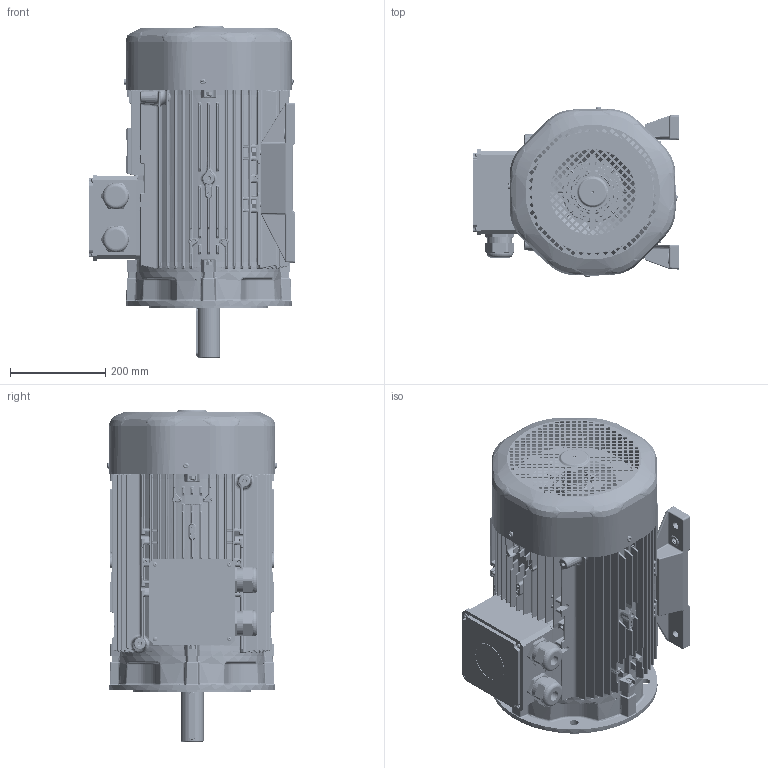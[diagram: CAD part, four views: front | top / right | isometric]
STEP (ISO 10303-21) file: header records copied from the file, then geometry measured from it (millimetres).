
FILE_DESCRIPTION(/* description */ (''),/* implementation_level */ '2;1');
FILE_NAME(/* name */ 'OUTLOOK VIEW QH180 PA B35 FF300 SPL.stp',/* time_stamp */ '2021-09-13T14:47:23+03:00',/* author */ (''),/* organization */ (''),/* preprocessor_version */ 'ST-DEVELOPER v16',/* originating_system */ 'SIEMENS PLM Software NX 11.0',/* authorisation */ '');
FILE_SCHEMA (('AUTOMOTIVE_DESIGN { 1 0 10303 214 3 1 1 1 }'));
Products named in the file (1): 26062CE45B9Cd73q
Bounding box: 434 x 357.27 x 698 mm (x, y, z)
Volume: 10376080.3 mm3; surface area: 3486577.4 mm2
Topology: 85 solids, 95 shells, 14789 faces, 36707 edges, 21708 vertices
Faces by surface type: cylinder 5183, plane 3834, bspline 3683, sphere 869, cone 625, torus 554, extrusion 41
Full cylindrical faces by diameter (mm): 2.5 x2, 3.5 x2, 4 x5, 4.3 x4, 4.918 x4, 5.5 x3, 5.6 x4, 6 x4, 6.5 x4, 7 x1, 7.6 x1, 8 x17, 8.376 x4, 8.5 x4, 9.444 x3, 10 x7, 10.5 x4, 12 x4, 13 x9, 14 x1, 16 x4, 16.5 x4, 17 x1, 18.5 x4, 20 x4, 22 x2, 24 x1, 43.7 x1, 44.3 x1, 47 x1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
Entity records: 521252 total; most frequent: CARTESIAN_POINT 191607, ORIENTED_EDGE 70688, DIRECTION 64533, EDGE_CURVE 35344, AXIS2_PLACEMENT_3D 25201, VERTEX_POINT 21551, EDGE_LOOP 16527, ADVANCED_FACE 14784
